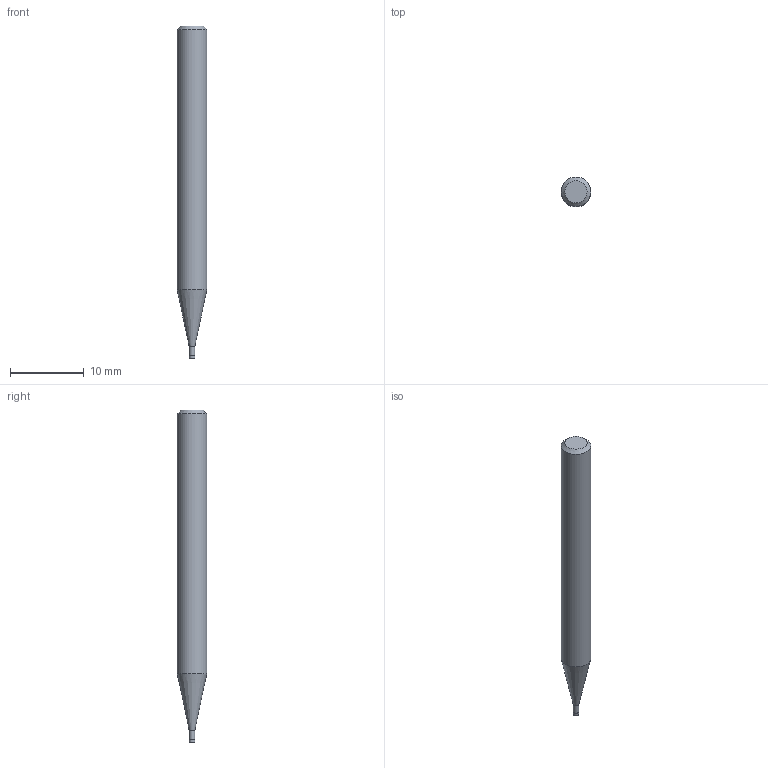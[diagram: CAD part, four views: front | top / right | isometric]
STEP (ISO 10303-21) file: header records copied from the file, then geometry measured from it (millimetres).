
FILE_DESCRIPTION((''),'2;1');
FILE_NAME('C:\Users\nsx150\AppData\Local\Temp\Mastercam 2021\CC00YWH0Y5\TEMP.step','2021-04-08T15:19:39',(''),(''),'STEP Write','Mastercam 2021 ... CNC Software, Inc.','');
FILE_SCHEMA(('AUTOMOTIVE_DESIGN'));
Length unit declared in the file: millimetre
Products named in the file (1): None
Bounding box: 4 x 4 x 45 mm (x, y, z)
Volume: 488.1 mm3; surface area: 521.8 mm2
Topology: 2 solids, 2 shells, 9 faces, 12 edges, 7 vertices
Faces by surface type: plane 4, cylinder 3, cone 2
Full cylindrical faces by diameter (mm): 0.76 x1, 0.8 x1, 4 x1
Entity records: 211 total; most frequent: DIRECTION 36, CARTESIAN_POINT 25, AXIS2_PLACEMENT_3D 18, ORIENTED_EDGE 14, EDGE_LOOP 14, STYLED_ITEM 12, ADVANCED_FACE 9, FACE_BOUND 8
